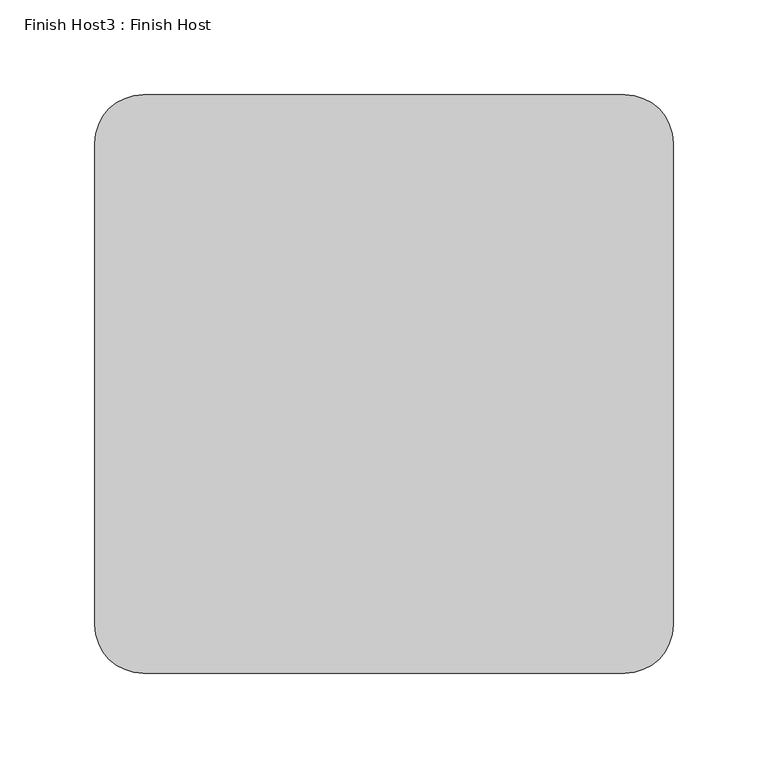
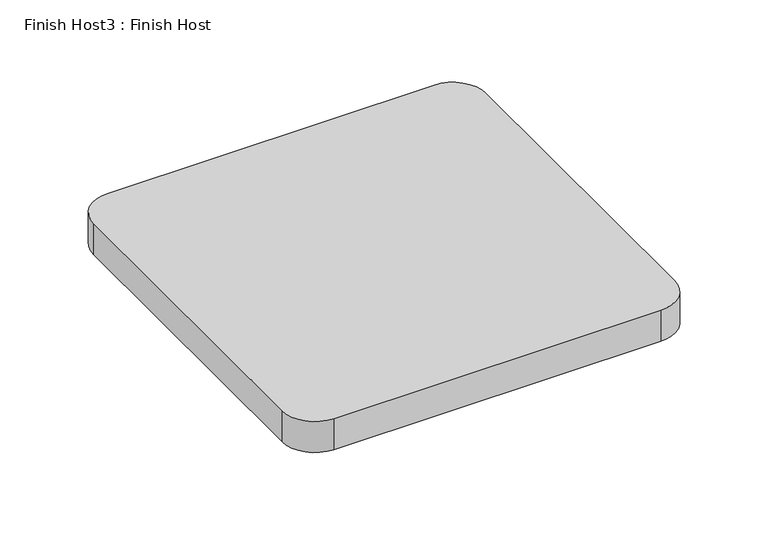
"""IFC4 building model written with IfcOpenShell, lengths in millimetres: proxy geometry, Finish Host3 : Finish Host."""

from ifc_helpers import new_model, si_unit, point, frame_2d, origin, origin_with_axes, place, context, project, spatial, polyline, circle_curve, trimmed, segment, composite_curve, outline, extrude, source, transform, mapped, element, save


def finish_host3_finish_host_6cfe361c(model_context):
    return source(origin(), model_context, "Body", "SweptSolid", [
        extrude(outline(composite_curve([segment(polyline([(2409.3649374, 3242.5667263), (2409.3649374, 3496.5667263)]), True, "CONTINUOUS"), segment(trimmed(circle_curve(frame_2d((2434.7649374, 3496.5667263)), 25.4), [point((2409.3649374, 3496.5667263))], [point((2434.7649374, 3521.9667263))], False, "CARTESIAN"), True, "CONTINUOUS"), segment(polyline([(2434.7649374, 3521.9667263), (2688.7649374, 3521.9667263)]), True, "CONTINUOUS"), segment(trimmed(circle_curve(frame_2d((2688.7649374, 3496.5667263)), 25.4), [point((2688.7649374, 3521.9667263))], [point((2714.1649374, 3496.5667263))], False, "CARTESIAN"), True, "CONTINUOUS"), segment(polyline([(2714.1649374, 3496.5667263), (2714.1649374, 3242.5667263)]), True, "CONTINUOUS"), segment(trimmed(circle_curve(frame_2d((2688.7649374, 3242.5667263)), 25.4), [point((2714.1649374, 3242.5667263))], [point((2688.7649374, 3217.1667263))], False, "CARTESIAN"), True, "CONTINUOUS"), segment(polyline([(2688.7649374, 3217.1667263), (2434.7649374, 3217.1667263)]), True, "CONTINUOUS"), segment(trimmed(circle_curve(frame_2d((2434.7649374, 3242.5667263)), 25.4), [point((2434.7649374, 3217.1667263))], [point((2409.3649374, 3242.5667263))], False, "CARTESIAN"), True, "CONTINUOUS")], self_intersect=False)), origin_with_axes(), (0.0, 0.0, 1.0), 25.4),
    ])


if __name__ == "__main__":
    model = new_model("IFC4")
    model_context = context("Model", 3, world=origin())
    ifc_project = project(units=[si_unit("LENGTHUNIT", "METRE", prefix="MILLI")], contexts=[model_context])
    site = spatial("IfcSite", under=ifc_project)
    building = spatial("IfcBuilding", under=site)
    placement = place(None, origin())
    finish_host3_finish_host_shape = finish_host3_finish_host_6cfe361c(model_context)
    element("IfcBuildingElementProxy", 1, Name="Finish Host3 : Finish Host", ObjectType="Finish Host3 : Finish Host", at=placement, inside=building, context=model_context, shape_type="MappedRepresentation", body=[
        mapped(finish_host3_finish_host_shape, transform((0.0, 0.0, 0.0), x_axis=(1.0, 0.0, 0.0), y_axis=(0.0, 1.0, 0.0), z_axis=(0.0, 0.0, 1.0))),
    ])
    save(model, "model.ifc")
